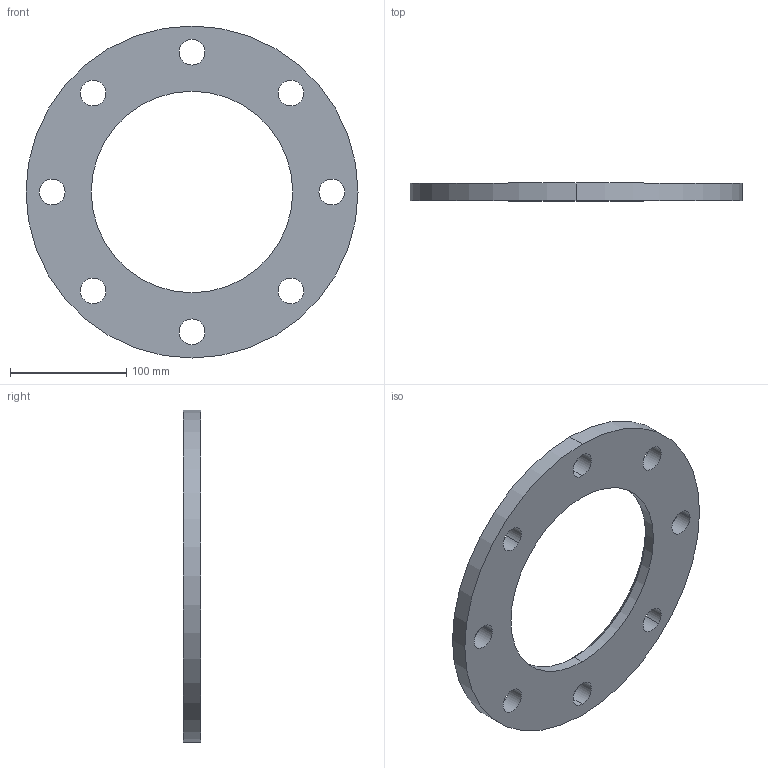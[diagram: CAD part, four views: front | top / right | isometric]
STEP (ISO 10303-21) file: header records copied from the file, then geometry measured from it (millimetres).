
FILE_DESCRIPTION (( 'STEP AP203' ), '1' );
FILE_NAME ('3D_R185_PN10_DN168.3_176641170_176642170.STEP', '2024-07-10T07:15:12', ( '' ), ( '' ), 'SwSTEP 2.0', 'SolidWorks 2024', '' );
FILE_SCHEMA (( 'CONFIG_CONTROL_DESIGN' ));
Length unit declared in the file: millimetre
Products named in the file (1): 3D_R185_PN10_DN168.3_176641170_176642170
Bounding box: 285 x 15 x 285 mm (x, y, z)
Volume: 550306.2 mm3; surface area: 102658.3 mm2
Topology: 1 solids, 1 shells, 24 faces, 64 edges, 42 vertices
Faces by surface type: cylinder 20, cone 2, plane 2
Entity records: 887 total; most frequent: DIRECTION 156, CARTESIAN_POINT 131, ORIENTED_EDGE 128, AXIS2_PLACEMENT_3D 67, EDGE_CURVE 64, EDGE_LOOP 42, VERTEX_POINT 42, CIRCLE 42
